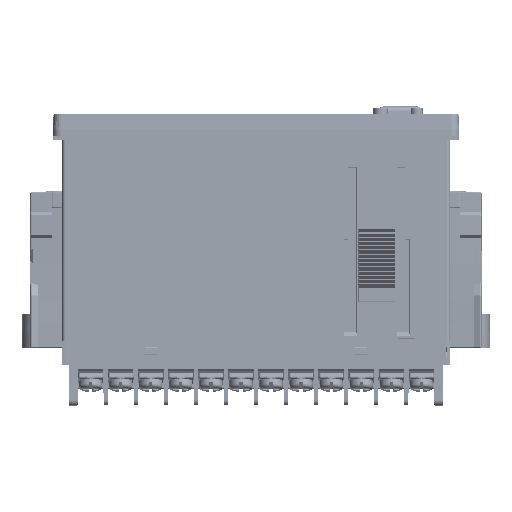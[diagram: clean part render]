
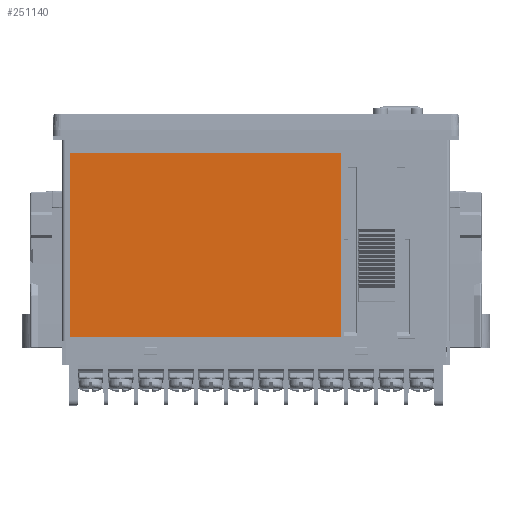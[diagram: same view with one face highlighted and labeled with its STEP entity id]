
A CAD part, left-side view. The second image highlights one B-rep face of the part: STEP entity #251140.
In plain terms, the highlighted planar face has unit normal (-1, 0, 0).
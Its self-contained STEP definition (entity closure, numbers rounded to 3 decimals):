
#17380 = LINE ( 'NONE', #330288, #123790 ) ;
#29328 = VECTOR ( 'NONE', #67611, 1000. ) ;
#29823 = CARTESIAN_POINT ( 'NONE',  ( -22.225, 44., -5.9 ) ) ;
#31495 = ORIENTED_EDGE ( 'NONE', *, *, #134802, .T. ) ;
#35187 = VERTEX_POINT ( 'NONE', #215322 ) ;
#53013 = VERTEX_POINT ( 'NONE', #364975 ) ;
#60933 = DIRECTION ( 'NONE',  ( 0., 1., 0. ) ) ;
#67611 = DIRECTION ( 'NONE',  ( 0., -1., 0. ) ) ;
#79575 = AXIS2_PLACEMENT_3D ( 'NONE', #409871, #367037, #322308 ) ;
#83926 = EDGE_CURVE ( 'NONE', #187170, #544711, #325707, .T. ) ;
#94000 = LINE ( 'NONE', #402298, #487724 ) ;
#98549 = DIRECTION ( 'NONE',  ( 0., 0., -1. ) ) ;
#109795 = PLANE ( 'NONE',  #79575 ) ;
#123790 = VECTOR ( 'NONE', #503614, 1000. ) ;
#134802 = EDGE_CURVE ( 'NONE', #35187, #53013, #142733, .T. ) ;
#136082 = EDGE_CURVE ( 'NONE', #544711, #35187, #94000, .T. ) ;
#142733 = LINE ( 'NONE', #363920, #29328 ) ;
#176579 = ORIENTED_EDGE ( 'NONE', *, *, #353713, .T. ) ;
#187170 = VERTEX_POINT ( 'NONE', #551367 ) ;
#192573 = ORIENTED_EDGE ( 'NONE', *, *, #136082, .T. ) ;
#208104 = EDGE_LOOP ( 'NONE', ( #31495, #176579, #436887, #192573 ) ) ;
#215322 = CARTESIAN_POINT ( 'NONE',  ( -22.225, 44., -49.4 ) ) ;
#251140 = ADVANCED_FACE ( 'NONE', ( #282288 ), #109795, .T. ) ;
#269765 = CARTESIAN_POINT ( 'NONE',  ( -22.225, 44., -5.9 ) ) ;
#282288 = FACE_OUTER_BOUND ( 'NONE', #208104, .T. ) ;
#322308 = DIRECTION ( 'NONE',  ( 0., -1., 0. ) ) ;
#325707 = LINE ( 'NONE', #269765, #352488 ) ;
#330288 = CARTESIAN_POINT ( 'NONE',  ( -22.225, -20., -49.4 ) ) ;
#352488 = VECTOR ( 'NONE', #60933, 1000. ) ;
#353713 = EDGE_CURVE ( 'NONE', #53013, #187170, #17380, .T. ) ;
#363920 = CARTESIAN_POINT ( 'NONE',  ( -22.225, 44., -49.4 ) ) ;
#364975 = CARTESIAN_POINT ( 'NONE',  ( -22.225, -20., -49.4 ) ) ;
#367037 = DIRECTION ( 'NONE',  ( -1., 0., 0. ) ) ;
#402298 = CARTESIAN_POINT ( 'NONE',  ( -22.225, 44., -49.4 ) ) ;
#409871 = CARTESIAN_POINT ( 'NONE',  ( -22.225, -20., -49.4 ) ) ;
#436887 = ORIENTED_EDGE ( 'NONE', *, *, #83926, .T. ) ;
#487724 = VECTOR ( 'NONE', #98549, 1000. ) ;
#503614 = DIRECTION ( 'NONE',  ( 0., 0., 1. ) ) ;
#544711 = VERTEX_POINT ( 'NONE', #29823 ) ;
#551367 = CARTESIAN_POINT ( 'NONE',  ( -22.225, -20., -5.9 ) ) ;
